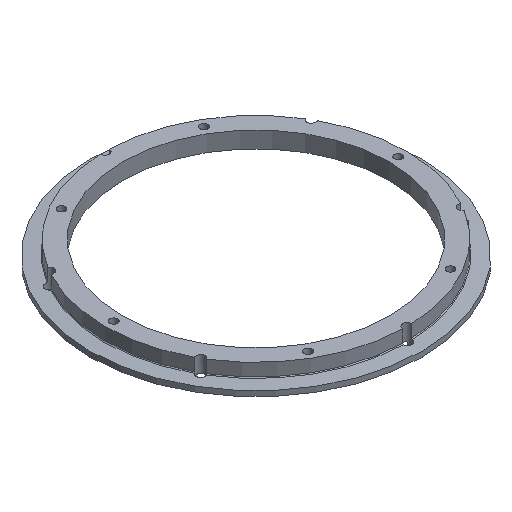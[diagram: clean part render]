
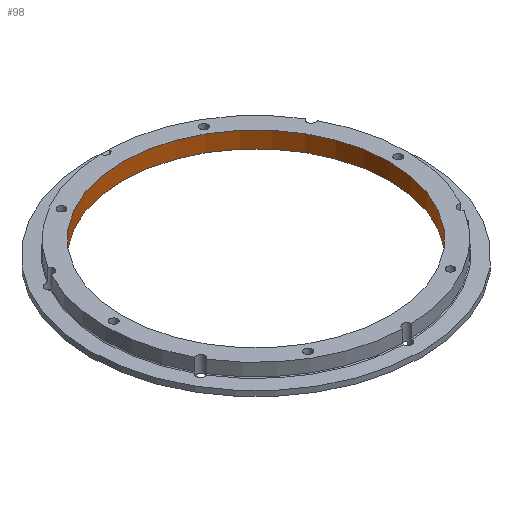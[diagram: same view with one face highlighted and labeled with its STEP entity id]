
A CAD part, isometric view. The second image highlights one B-rep face of the part: STEP entity #98.
In plain terms, the highlighted cylindrical face has radius 90 mm (diameter 180 mm), a full revolution.
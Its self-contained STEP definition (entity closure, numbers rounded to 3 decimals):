
#98 = ADVANCED_FACE( '', ( #218, #219 ), #220, .F. );
#218 = FACE_OUTER_BOUND( '', #381, .T. );
#219 = FACE_OUTER_BOUND( '', #382, .T. );
#220 = CYLINDRICAL_SURFACE( '', #383, 90. );
#381 = EDGE_LOOP( '', ( #629 ) );
#382 = EDGE_LOOP( '', ( #630 ) );
#383 = AXIS2_PLACEMENT_3D( '', #631, #632, #633 );
#629 = ORIENTED_EDGE( '', *, *, #985, .T. );
#630 = ORIENTED_EDGE( '', *, *, #986, .F. );
#631 = CARTESIAN_POINT( '', ( 0., 0., 54. ) );
#632 = DIRECTION( '', ( 0., 0., 1. ) );
#633 = DIRECTION( '', ( -1., 0., 0. ) );
#985 = EDGE_CURVE( '', #1207, #1207, #1208, .T. );
#986 = EDGE_CURVE( '', #1209, #1209, #1210, .T. );
#1207 = VERTEX_POINT( '', #1588 );
#1208 = CIRCLE( '', #1589, 90. );
#1209 = VERTEX_POINT( '', #1590 );
#1210 = CIRCLE( '', #1591, 90. );
#1588 = CARTESIAN_POINT( '', ( -90., 0., 2. ) );
#1589 = AXIS2_PLACEMENT_3D( '', #1968, #1969, #1970 );
#1590 = CARTESIAN_POINT( '', ( -90., 0., 13. ) );
#1591 = AXIS2_PLACEMENT_3D( '', #1971, #1972, #1973 );
#1968 = CARTESIAN_POINT( '', ( 0., 0., 2. ) );
#1969 = DIRECTION( '', ( 0., 0., -1. ) );
#1970 = DIRECTION( '', ( -1., 0., 0. ) );
#1971 = CARTESIAN_POINT( '', ( 0., 0., 13. ) );
#1972 = DIRECTION( '', ( 0., 0., -1. ) );
#1973 = DIRECTION( '', ( -1., 0., 0. ) );
